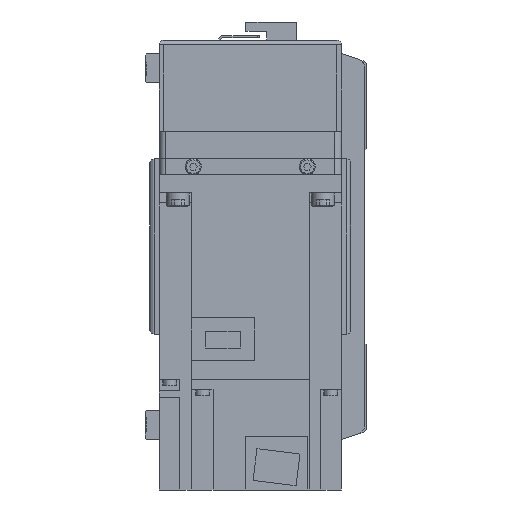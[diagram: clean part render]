
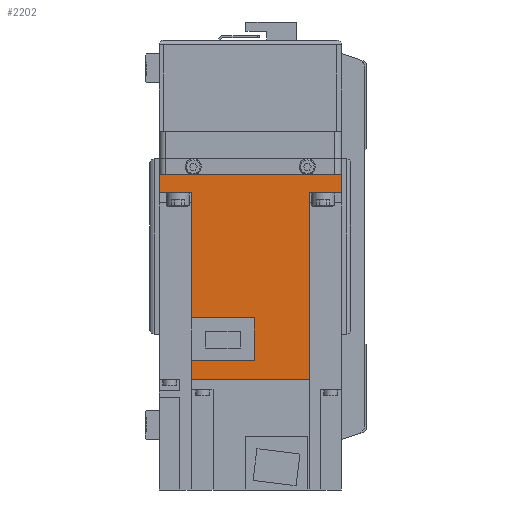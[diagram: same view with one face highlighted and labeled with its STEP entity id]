
A CAD part, left-side view. The second image highlights one B-rep face of the part: STEP entity #2202.
In plain terms, the highlighted planar face has unit normal (-1, 0, 0) as drawn and (1, 0, 0) by its records, which use the part's own axes.
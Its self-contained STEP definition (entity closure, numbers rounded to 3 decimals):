
#2202 = ADVANCED_FACE( '', ( #4964 ), #4965, .F. );
#4964 = FACE_OUTER_BOUND( '', #8334, .T. );
#4965 = PLANE( '', #8335 );
#8334 = EDGE_LOOP( '', ( #14566, #14567, #14568, #14569, #14570, #14571, #14572, #14573, #14574, #14575, #14576, #14577 ) );
#8335 = AXIS2_PLACEMENT_3D( '', #14578, #14579, #14580 );
#14566 = ORIENTED_EDGE( '', *, *, #21508, .F. );
#14567 = ORIENTED_EDGE( '', *, *, #20135, .F. );
#14568 = ORIENTED_EDGE( '', *, *, #21509, .F. );
#14569 = ORIENTED_EDGE( '', *, *, #21510, .T. );
#14570 = ORIENTED_EDGE( '', *, *, #21511, .F. );
#14571 = ORIENTED_EDGE( '', *, *, #21512, .T. );
#14572 = ORIENTED_EDGE( '', *, *, #20579, .T. );
#14573 = ORIENTED_EDGE( '', *, *, #21513, .F. );
#14574 = ORIENTED_EDGE( '', *, *, #20700, .F. );
#14575 = ORIENTED_EDGE( '', *, *, #20137, .F. );
#14576 = ORIENTED_EDGE( '', *, *, #21514, .F. );
#14577 = ORIENTED_EDGE( '', *, *, #21515, .F. );
#14578 = CARTESIAN_POINT( '', ( 40., 89.8, 40. ) );
#14579 = DIRECTION( '', ( -1., 0., 0. ) );
#14580 = DIRECTION( '', ( 0., 0., 1. ) );
#20135 = EDGE_CURVE( '', #24424, #24426, #24427, .T. );
#20137 = EDGE_CURVE( '', #24428, #24430, #24431, .T. );
#20579 = EDGE_CURVE( '', #25139, #25137, #25140, .T. );
#20700 = EDGE_CURVE( '', #24430, #25332, #25333, .T. );
#21508 = EDGE_CURVE( '', #24426, #26500, #26501, .T. );
#21509 = EDGE_CURVE( '', #26502, #24424, #26503, .T. );
#21510 = EDGE_CURVE( '', #26502, #26504, #26505, .T. );
#21511 = EDGE_CURVE( '', #26506, #26504, #26507, .T. );
#21512 = EDGE_CURVE( '', #26506, #25139, #26508, .T. );
#21513 = EDGE_CURVE( '', #25332, #25137, #26509, .T. );
#21514 = EDGE_CURVE( '', #26510, #24428, #26511, .T. );
#21515 = EDGE_CURVE( '', #26500, #26510, #26512, .T. );
#24424 = VERTEX_POINT( '', #30412 );
#24426 = VERTEX_POINT( '', #30415 );
#24427 = LINE( '', #30416, #30417 );
#24428 = VERTEX_POINT( '', #30418 );
#24430 = VERTEX_POINT( '', #30421 );
#24431 = LINE( '', #30422, #30423 );
#25137 = VERTEX_POINT( '', #31637 );
#25139 = VERTEX_POINT( '', #31640 );
#25140 = LINE( '', #31641, #31642 );
#25332 = VERTEX_POINT( '', #31919 );
#25333 = LINE( '', #31920, #31921 );
#26500 = VERTEX_POINT( '', #33742 );
#26501 = LINE( '', #33743, #33744 );
#26502 = VERTEX_POINT( '', #33745 );
#26503 = LINE( '', #33746, #33747 );
#26504 = VERTEX_POINT( '', #33748 );
#26505 = LINE( '', #33749, #33750 );
#26506 = VERTEX_POINT( '', #33751 );
#26507 = LINE( '', #33752, #33753 );
#26508 = LINE( '', #33754, #33755 );
#26509 = LINE( '', #33756, #33757 );
#26510 = VERTEX_POINT( '', #33758 );
#26511 = LINE( '', #33759, #33760 );
#26512 = LINE( '', #33761, #33762 );
#30412 = CARTESIAN_POINT( '', ( 40., 89.8, -25.95 ) );
#30415 = CARTESIAN_POINT( '', ( 40., 81.4, -25.95 ) );
#30416 = CARTESIAN_POINT( '', ( 40., 158., -25.95 ) );
#30417 = VECTOR( '', #37126, 1000. );
#30418 = CARTESIAN_POINT( '', ( 40., 62.8, -25.95 ) );
#30421 = CARTESIAN_POINT( '', ( 40., 8., -25.95 ) );
#30422 = CARTESIAN_POINT( '', ( 40., 158., -25.95 ) );
#30423 = VECTOR( '', #37128, 1000. );
#31637 = CARTESIAN_POINT( '', ( 40., 0., -40. ) );
#31640 = CARTESIAN_POINT( '', ( 40., 0., 40. ) );
#31641 = CARTESIAN_POINT( '', ( 40., 0., 40. ) );
#31642 = VECTOR( '', #37696, 1000. );
#31919 = CARTESIAN_POINT( '', ( 40., 8., -40. ) );
#31920 = CARTESIAN_POINT( '', ( 40., 8., 40. ) );
#31921 = VECTOR( '', #37856, 1000. );
#33742 = CARTESIAN_POINT( '', ( 40., 81.4, 1.8 ) );
#33743 = CARTESIAN_POINT( '', ( 40., 81.4, -26. ) );
#33744 = VECTOR( '', #38765, 1000. );
#33745 = CARTESIAN_POINT( '', ( 40., 89.8, 25.95 ) );
#33746 = CARTESIAN_POINT( '', ( 40., 89.8, 40. ) );
#33747 = VECTOR( '', #38766, 1000. );
#33748 = CARTESIAN_POINT( '', ( 40., 8., 25.95 ) );
#33749 = CARTESIAN_POINT( '', ( 40., 158., 25.95 ) );
#33750 = VECTOR( '', #38767, 1000. );
#33751 = CARTESIAN_POINT( '', ( 40., 8., 40. ) );
#33752 = CARTESIAN_POINT( '', ( 40., 8., 40. ) );
#33753 = VECTOR( '', #38768, 1000. );
#33754 = CARTESIAN_POINT( '', ( 40., 89.8, 40. ) );
#33755 = VECTOR( '', #38769, 1000. );
#33756 = CARTESIAN_POINT( '', ( 40., 89.8, -40. ) );
#33757 = VECTOR( '', #38770, 1000. );
#33758 = CARTESIAN_POINT( '', ( 40., 62.8, 1.8 ) );
#33759 = CARTESIAN_POINT( '', ( 40., 62.8, 1.8 ) );
#33760 = VECTOR( '', #38771, 1000. );
#33761 = CARTESIAN_POINT( '', ( 40., 81.4, 1.8 ) );
#33762 = VECTOR( '', #38772, 1000. );
#37126 = DIRECTION( '', ( 0., -1., 0. ) );
#37128 = DIRECTION( '', ( 0., -1., 0. ) );
#37696 = DIRECTION( '', ( 0., 0., -1. ) );
#37856 = DIRECTION( '', ( 0., 0., -1. ) );
#38765 = DIRECTION( '', ( 0., 0., 1. ) );
#38766 = DIRECTION( '', ( 0., 0., -1. ) );
#38767 = DIRECTION( '', ( 0., -1., 0. ) );
#38768 = DIRECTION( '', ( 0., 0., -1. ) );
#38769 = DIRECTION( '', ( 0., -1., 0. ) );
#38770 = DIRECTION( '', ( 0., -1., 0. ) );
#38771 = DIRECTION( '', ( 0., 0., -1. ) );
#38772 = DIRECTION( '', ( 0., -1., 0. ) );
